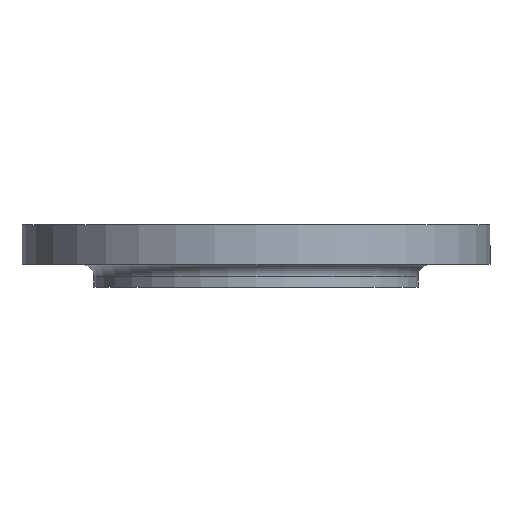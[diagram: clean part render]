
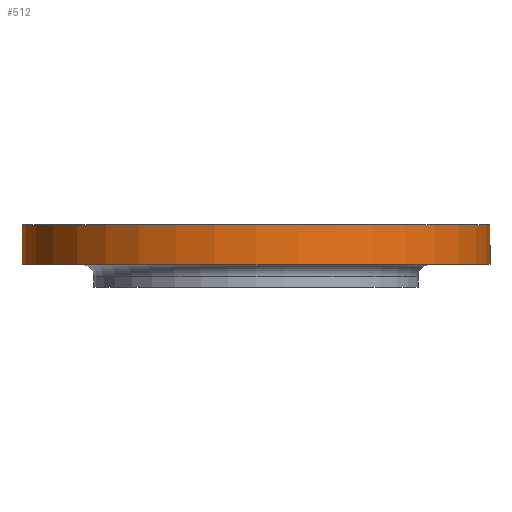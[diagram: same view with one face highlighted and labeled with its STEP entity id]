
A CAD part, front view. The second image highlights one B-rep face of the part: STEP entity #512.
In plain terms, the highlighted cylindrical face has radius 225 mm (diameter 450 mm), a partial arc.
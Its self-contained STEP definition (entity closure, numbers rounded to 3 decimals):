
#4 = AXIS2_PLACEMENT_3D ( 'NONE', #593, #592, #591 ) ;
#19 = EDGE_CURVE ( 'NONE', #1132, #1038, #24, .T. ) ;
#24 = CIRCLE ( 'NONE', #678, 225. ) ;
#25 = VECTOR ( 'NONE', #569, 1000. ) ;
#43 = EDGE_CURVE ( 'NONE', #919, #1132, #651, .T. ) ;
#53 = ORIENTED_EDGE ( 'NONE', *, *, #43, .F. ) ;
#55 = ORIENTED_EDGE ( 'NONE', *, *, #74, .T. ) ;
#74 = EDGE_CURVE ( 'NONE', #919, #1026, #755, .T. ) ;
#102 = EDGE_CURVE ( 'NONE', #1026, #1038, #571, .T. ) ;
#135 = CARTESIAN_POINT ( 'NONE',  ( -225., 0., 0. ) ) ;
#209 = CARTESIAN_POINT ( 'NONE',  ( 225., 0., 0. ) ) ;
#229 = CARTESIAN_POINT ( 'NONE',  ( 225., 0., -38. ) ) ;
#302 = CARTESIAN_POINT ( 'NONE',  ( -225., 0., -38. ) ) ;
#396 = DIRECTION ( 'NONE',  ( 1., 0., 0. ) ) ;
#398 = DIRECTION ( 'NONE',  ( 0., 0., 1. ) ) ;
#399 = CARTESIAN_POINT ( 'NONE',  ( 0., 0., -115. ) ) ;
#400 = CYLINDRICAL_SURFACE ( 'NONE', #1068, 225. ) ;
#401 = FACE_OUTER_BOUND ( 'NONE', #1073, .T. ) ;
#512 = ADVANCED_FACE ( 'NONE', ( #401 ), #400, .T. ) ;
#569 = DIRECTION ( 'NONE',  ( 0., 0., 1. ) ) ;
#570 = CARTESIAN_POINT ( 'NONE',  ( 225., 0., -115. ) ) ;
#571 = LINE ( 'NONE', #570, #25 ) ;
#591 = DIRECTION ( 'NONE',  ( 1., 0., 0. ) ) ;
#592 = DIRECTION ( 'NONE',  ( 0., 0., 1. ) ) ;
#593 = CARTESIAN_POINT ( 'NONE',  ( 0., 0., -38. ) ) ;
#648 = DIRECTION ( 'NONE',  ( 0., 0., 1. ) ) ;
#649 = CARTESIAN_POINT ( 'NONE',  ( -225., 0., -115. ) ) ;
#651 = LINE ( 'NONE', #649, #812 ) ;
#678 = AXIS2_PLACEMENT_3D ( 'NONE', #947, #717, #944 ) ;
#717 = DIRECTION ( 'NONE',  ( 0., 0., 1. ) ) ;
#729 = ORIENTED_EDGE ( 'NONE', *, *, #102, .T. ) ;
#731 = ORIENTED_EDGE ( 'NONE', *, *, #19, .F. ) ;
#755 = CIRCLE ( 'NONE', #4, 225. ) ;
#812 = VECTOR ( 'NONE', #648, 1000. ) ;
#919 = VERTEX_POINT ( 'NONE', #302 ) ;
#944 = DIRECTION ( 'NONE',  ( 1., 0., 0. ) ) ;
#947 = CARTESIAN_POINT ( 'NONE',  ( 0., 0., 0. ) ) ;
#1026 = VERTEX_POINT ( 'NONE', #229 ) ;
#1038 = VERTEX_POINT ( 'NONE', #209 ) ;
#1068 = AXIS2_PLACEMENT_3D ( 'NONE', #399, #398, #396 ) ;
#1073 = EDGE_LOOP ( 'NONE', ( #53, #55, #729, #731 ) ) ;
#1132 = VERTEX_POINT ( 'NONE', #135 ) ;
